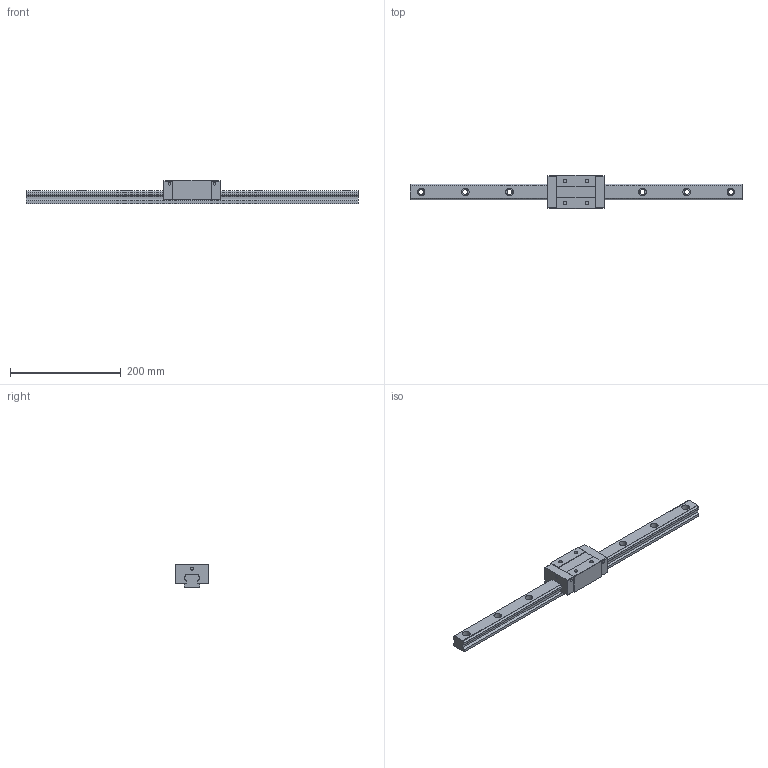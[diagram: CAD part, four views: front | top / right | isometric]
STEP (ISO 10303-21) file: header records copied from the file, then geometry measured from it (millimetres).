
FILE_DESCRIPTION (( 'STEP AP203' ), '1' );
FILE_NAME ('TRS30VN-SU.STEP', '2024-06-26T05:09:58', ( '' ), ( '' ), 'SwSTEP 2.0', 'SolidWorks 2022', '' );
FILE_SCHEMA (( 'CONFIG_CONTROL_DESIGN' ));
Length unit declared in the file: millimetre
Products named in the file (1): TRS30VN-SU
Bounding box: 600 x 60 x 42 mm (x, y, z)
Volume: 490032.9 mm3; surface area: 97409.4 mm2
Topology: 2 solids, 2 shells, 178 faces, 464 edges, 308 vertices
Faces by surface type: plane 90, cylinder 88
Entity records: 5619 total; most frequent: DIRECTION 998, CARTESIAN_POINT 951, ORIENTED_EDGE 928, EDGE_CURVE 464, AXIS2_PLACEMENT_3D 355, VERTEX_POINT 308, LINE 288, VECTOR 288
